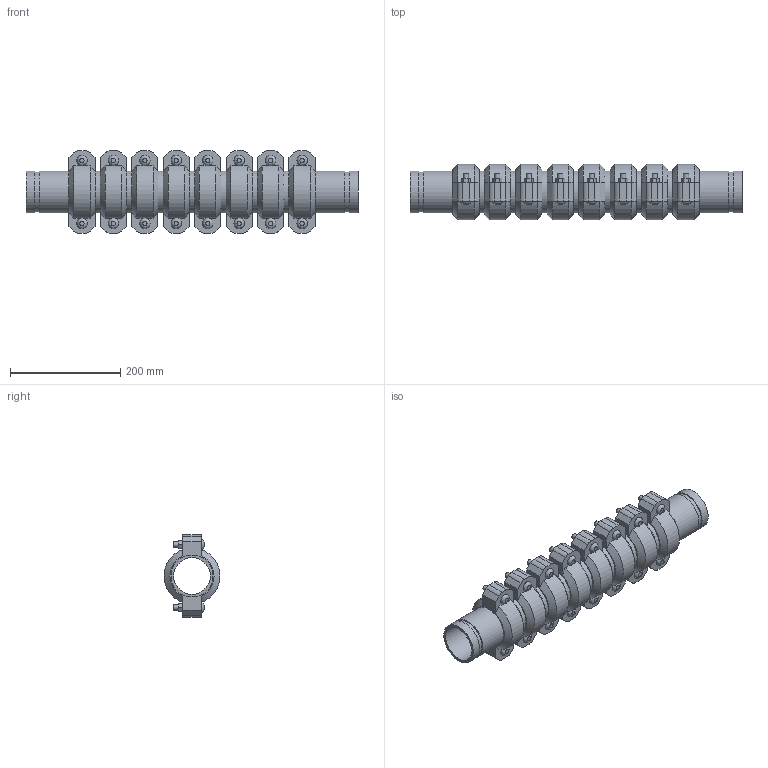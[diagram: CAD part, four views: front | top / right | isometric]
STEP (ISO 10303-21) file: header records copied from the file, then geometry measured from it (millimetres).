
FILE_DESCRIPTION(/* description */ ('VIC EXPANSION JOINT 8 COUPLINGS COMPRESSED STYLE 155 (OGS)','CAx-IF Rec.Pracs.---Representation and Presentation of Product Manufacturing Information (PMI)---4.0---2014-10-13'),/* implementation_level */ '2;1');
FILE_NAME(/* name */ 'C:\Users\kkamble\AppData\Roaming\Autodesk\ApplicationPlugins\Victaulic.Temp\A709\Victaulic_IPS_Expansion Joint_Compressed_8 Couplings_Style 155 (OGS)_02.5 (76.1) (65).stp',/* time_stamp */ '2021-06-27T00:36:03+02:00',/* author */ ('kkamble'),/* organization */ ('Victaulic'),/* preprocessor_version */ 'ST-DEVELOPER v17.2',/* originating_system */ 'Autodesk Inventor 2019',/* authorisation */ '');
FILE_SCHEMA (('AP242_MANAGED_MODEL_BASED_3D_ENGINEERING_MIM_LF { 1 0 10303 442 1 1 4 }'));
Length unit declared in the file: inch
Products named in the file (4): 155-02.5 (76.1); Nipple-02.5 (76.1); Nipple-02.5 (76.1)_1; 075-02.5 (76.1)
Assembly tree (17 placements, depth 2):
  155-02.5 (76.1)
    Nipple-02.5 (76.1)  x2
    Nipple-02.5 (76.1)_1  x7
    075-02.5 (76.1)  x8
Bounding box: 603.25 x 101.25 x 149.86 mm (x, y, z)
Volume: 2340144 mm3; surface area: 656328.6 mm2
Topology: 17 solids, 33 shells, 532 faces, 1318 edges, 920 vertices
Faces by surface type: plane 326, cylinder 158, cone 32, bspline 16
Full cylindrical faces by diameter (mm): 9.525 x32, 11.43 x16, 66.65 x9, 72.263 x18, 76.2 x35
Entity records: 2805 total; most frequent: CARTESIAN_POINT 519, DIRECTION 461, ORIENTED_EDGE 382, EDGE_CURVE 191, AXIS2_PLACEMENT_3D 184, VERTEX_POINT 136, EDGE_LOOP 99, LINE 93
